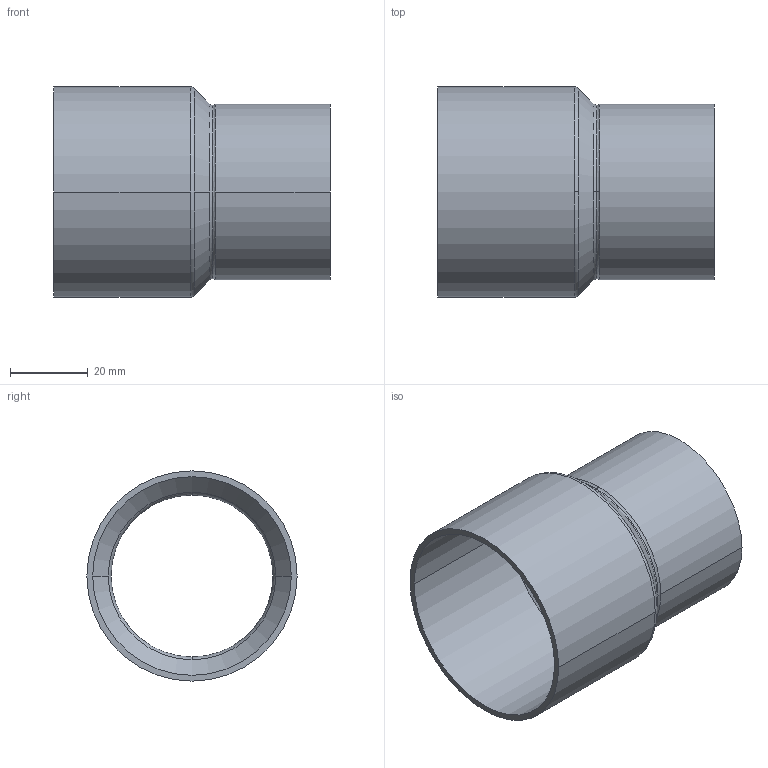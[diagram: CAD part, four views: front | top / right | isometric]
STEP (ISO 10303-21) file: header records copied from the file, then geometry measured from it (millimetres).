
FILE_DESCRIPTION((''),'2;1');
FILE_NAME('G:\Technics\CAD\Bauteile\Serie 15243\152435442.stp','2005-10-21T12:49:46',('boden'),(''),'Autodesk Inventor 8','Autodesk Inventor 8','');
FILE_SCHEMA(('AUTOMOTIVE_DESIGN { 1 0 10303 214 1 1 1 1 }'));
Length unit declared in the file: millimetre
Products named in the file (1): 152435442
Bounding box: 71 x 54 x 54 mm (x, y, z)
Volume: 16597.5 mm3; surface area: 22584.4 mm2
Topology: 1 solids, 1 shells, 24 faces, 60 edges, 38 vertices
Faces by surface type: cylinder 8, torus 6, bspline 4, cone 4, plane 2
Entity records: 931 total; most frequent: CARTESIAN_POINT 299, DIRECTION 150, ORIENTED_EDGE 120, AXIS2_PLACEMENT_3D 69, EDGE_CURVE 60, CIRCLE 48, VERTEX_POINT 38, EDGE_LOOP 26
